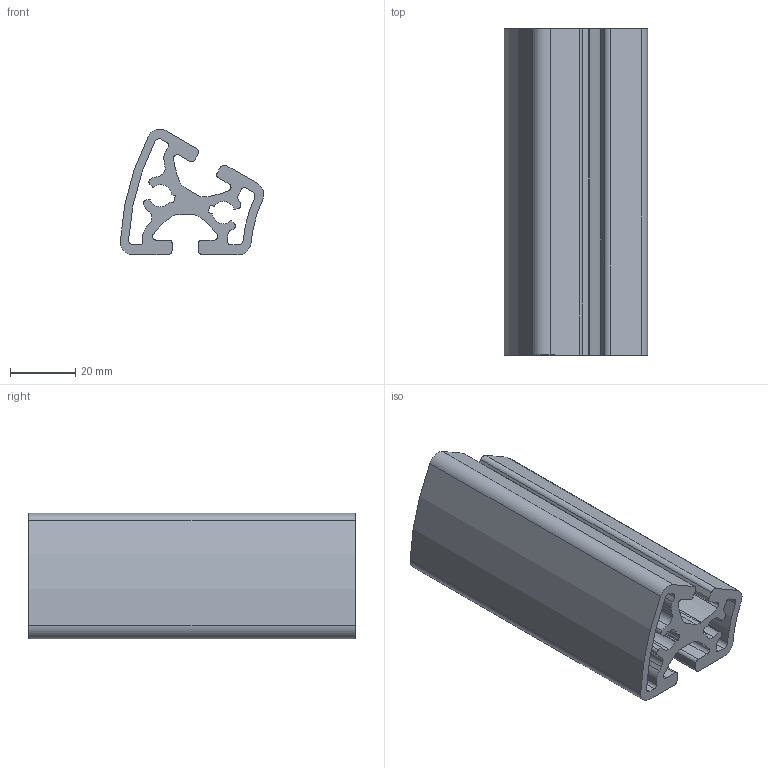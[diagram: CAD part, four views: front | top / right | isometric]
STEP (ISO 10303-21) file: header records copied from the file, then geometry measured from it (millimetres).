
FILE_DESCRIPTION (( 'STEP AP203' ), '1' );
FILE_NAME ('0108PR40-80-30L.STEP', '2024-02-29T12:40:12', ( 'Windows-Benutzer' ), ( '' ), 'SwSTEP 2.0', 'SolidWorks 2023', '' );
FILE_SCHEMA (( 'CONFIG_CONTROL_DESIGN' ));
Length unit declared in the file: millimetre
Products named in the file (1): 0108PR40-80-30L
Bounding box: 43.93 x 100 x 38.48 mm (x, y, z)
Volume: 62679 mm3; surface area: 38072.2 mm2
Topology: 1 solids, 1 shells, 116 faces, 342 edges, 228 vertices
Faces by surface type: cylinder 80, plane 36
Entity records: 4031 total; most frequent: DIRECTION 736, CARTESIAN_POINT 687, ORIENTED_EDGE 684, EDGE_CURVE 342, AXIS2_PLACEMENT_3D 277, VERTEX_POINT 228, VECTOR 182, LINE 182
